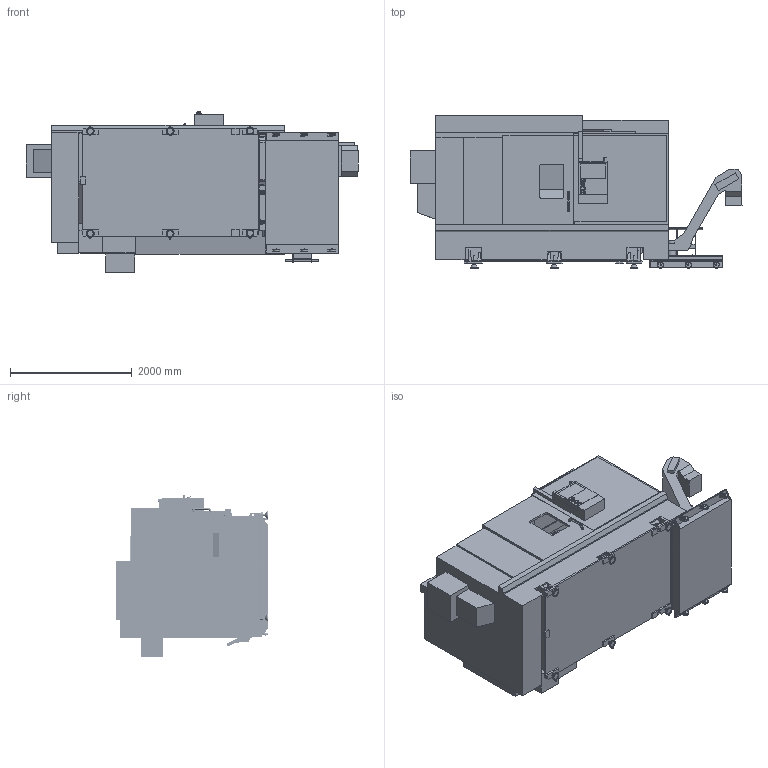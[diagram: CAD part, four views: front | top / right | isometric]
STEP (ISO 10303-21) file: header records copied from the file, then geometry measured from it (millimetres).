
FILE_DESCRIPTION (( 'STEP AP203' ), '1' );
FILE_NAME ('DS-40 Y _5_2026.STEP', '2026-05-06T19:11:59', ( '' ), ( '' ), 'SwSTEP 2.0', 'SolidWorks 2025', '' );
FILE_SCHEMA (( 'CONFIG_CONTROL_DESIGN' ));
Products named in the file (20): DS-40Y - 15 Inch Chuck; DS-40Y - Anchor Pattern; DS-40Y - BMT75 Live Tooling; DS-40Y - Belt Style Conveyor; DS-40Y - Base Casting; DS-40Y - Y-Z Axis Wedge; DS-40Y - 95 Gallon Tank; DS-40Y - Auto Door; DS-40Y - X-Y Axis Wedge; DS-40Y - Leveling Pads; DS-40Y - Enclosure; DS-40Y - Spindle Assembly; DS-40Y - 10 Inch Chuck; DS-40Y - BMT75 OD Metric Tool; DS-40Y - Sub Spindle; DS-40Y - BMT75 OD Inch Tool; DS-40Y - X Axis Turret Housing; DS-40Y- BMT 75 Y AXIS TURRET; DS-40Y - Control Panel; DS-40 Y _5_2026
Assembly tree (19 placements, depth 2):
  DS-40 Y _5_2026
    DS-40Y - Anchor Pattern
    DS-40Y - Leveling Pads
    DS-40Y - Base Casting
    DS-40Y - Y-Z Axis Wedge
    DS-40Y - X-Y Axis Wedge
    DS-40Y - X Axis Turret Housing
    DS-40Y- BMT 75 Y AXIS TURRET
    DS-40Y - BMT75 Live Tooling
    DS-40Y - BMT75 OD Inch Tool
    DS-40Y - BMT75 OD Metric Tool
    DS-40Y - Sub Spindle
    DS-40Y - Spindle Assembly
    DS-40Y - 10 Inch Chuck
    DS-40Y - 15 Inch Chuck
    DS-40Y - Enclosure
    DS-40Y - Control Panel
    DS-40Y - Auto Door
    DS-40Y - Belt Style Conveyor
    DS-40Y - 95 Gallon Tank
Bounding box: 5445.57 x 2504.53 x 2645.49 mm (x, y, z)
Volume: 7377060833.6 mm3; surface area: 152186059.5 mm2
Topology: 67 solids, 80 shells, 7590 faces, 19211 edges, 11874 vertices
Faces by surface type: plane 3538, cylinder 1968, bspline 1018, cone 740, torus 191, sphere 135
Entity records: 279594 total; most frequent: CARTESIAN_POINT 105319, ORIENTED_EDGE 37974, DIRECTION 32898, EDGE_CURVE 18987, VERTEX_POINT 11874, AXIS2_PLACEMENT_3D 11132, VECTOR 10634, LINE 10634
